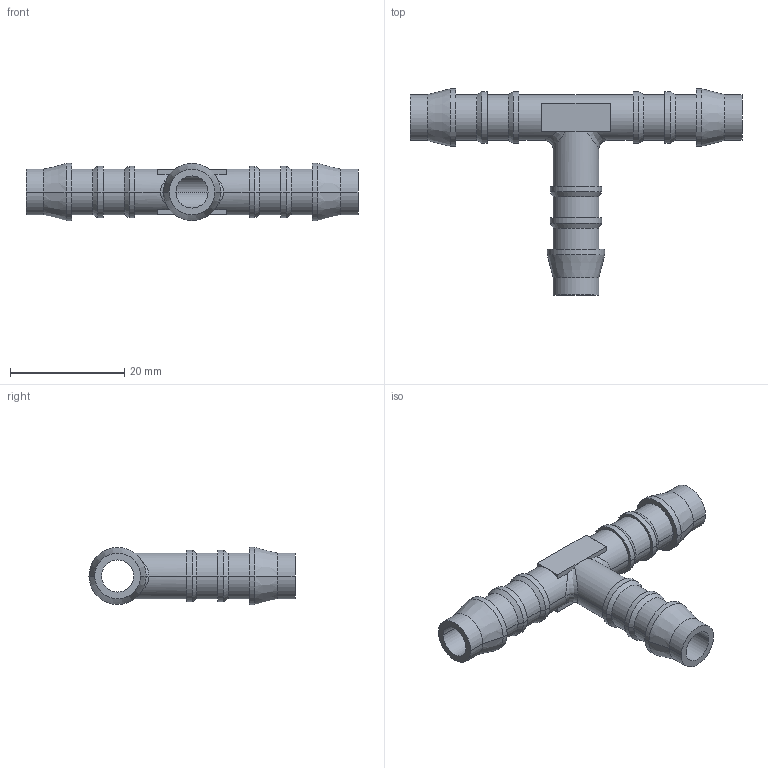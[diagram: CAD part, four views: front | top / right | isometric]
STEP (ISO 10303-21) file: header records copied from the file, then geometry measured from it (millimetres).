
FILE_DESCRIPTION (( 'STEP AP214' ), '1' );
FILE_NAME ('142300095X700.STEP', '2024-05-07T13:30:02', ( '' ), ( '' ), 'SwSTEP 2.0', 'SolidWorks 2020', '' );
FILE_SCHEMA (( 'AUTOMOTIVE_DESIGN' ));
Length unit declared in the file: mil
Products named in the file (1): 142300095X700
Bounding box: 58 x 36 x 10 mm (x, y, z)
Volume: 2563.2 mm3; surface area: 3998.3 mm2
Topology: 1 solids, 1 shells, 94 faces, 206 edges, 122 vertices
Faces by surface type: cylinder 44, plane 28, cone 18, bspline 4
Entity records: 3216 total; most frequent: CARTESIAN_POINT 1079, DIRECTION 470, ORIENTED_EDGE 412, EDGE_CURVE 206, AXIS2_PLACEMENT_3D 189, VERTEX_POINT 122, EDGE_LOOP 106, CIRCLE 98
